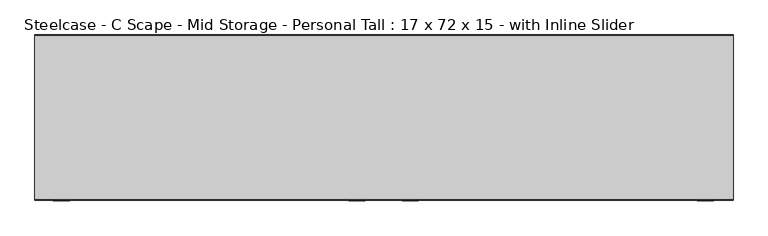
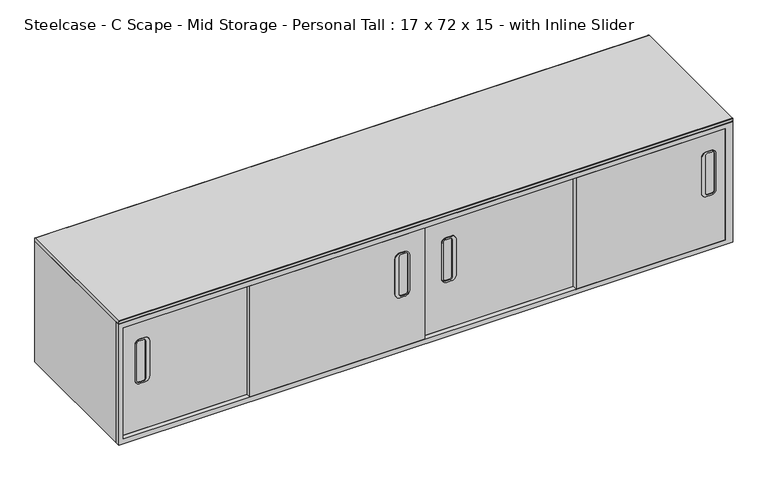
"""IFC4 building model written with IfcOpenShell, lengths in millimetres: furniture geometry, Steelcase - C Scape - Mid Storage - Personal Tall : 17 x 72 x 15 - with Inline Slider."""

from ifc_helpers import new_model, si_unit, point, frame, frame_2d, origin, place, context, project, spatial, polyline, circle_curve, trimmed, segment, composite_curve, outline, extrude, source, transform, mapped, element, save


def steelcase_c_scape_mid_storage_personal_tall_17_x_72_x_15_29b2afee(model_context):
    return source(origin(), model_context, "Body", "SweptSolid", [
        extrude(outline(polyline([(1219.2, 1828.8), (1219.2, 0.0), (838.2, 0.0), (838.2, 1828.8), (1219.2, 1828.8)]), holes=[polyline([(1203.9092, 1806.702), (853.4399855, 1806.702), (853.4399855, 13.437709), (1203.9092, 13.437709), (1203.9092, 1806.702)])]), frame((0.0, -216.535, 0.0), z_axis=(0.0, 1.0, 0.0), x_axis=(0.0, 0.0, 1.0)), (0.0, 0.0, 1.0), 14.3764481),
        extrude(outline(polyline([(1806.702, 207.0105809), (1806.702, -187.7821039), (13.437709, -187.7821039), (13.437709, 207.0105809), (1806.702, 207.0105809)])), frame((0.0, 0.0, 1203.9600145), z_axis=(0.0, 0.0, 1.0), x_axis=(1.0, 0.0, 0.0)), (0.0, 0.0, 1.0), 15.2399855),
        extrude(outline(polyline([(1806.702, 207.0105809), (1806.702, -202.1585519), (13.437709, -202.1585519), (13.437709, 207.0105809), (1806.702, 207.0105809)])), frame((0.0, 0.0, 838.2), z_axis=(0.0, 0.0, 1.0), x_axis=(1.0, 0.0, 0.0)), (0.0, 0.0, 1.0), 15.2399855),
        extrude(outline(composite_curve([segment(polyline([(-215.265, 1229.36), (215.265, 1229.36)]), True, "CONTINUOUS"), segment(trimmed(circle_curve(frame_2d((215.265, 1228.09)), 1.27), [point((215.265, 1229.36))], [point((216.535, 1228.09))], False, "CARTESIAN"), True, "CONTINUOUS"), segment(polyline([(216.535, 1228.09), (216.535, 1220.47)]), True, "CONTINUOUS"), segment(trimmed(circle_curve(frame_2d((215.265, 1220.47)), 1.27), [point((216.535, 1220.47))], [point((215.265, 1219.2))], False, "CARTESIAN"), True, "CONTINUOUS"), segment(polyline([(215.265, 1219.2), (-215.265, 1219.2)]), True, "CONTINUOUS"), segment(trimmed(circle_curve(frame_2d((-215.265, 1220.47)), 1.27), [point((-215.265, 1219.2))], [point((-216.535, 1220.47))], False, "CARTESIAN"), True, "CONTINUOUS"), segment(polyline([(-216.535, 1220.47), (-216.535, 1228.09)]), True, "CONTINUOUS"), segment(trimmed(circle_curve(frame_2d((-215.265, 1228.09)), 1.27), [point((-216.535, 1228.09))], [point((-215.265, 1229.36))], False, "CARTESIAN"), True, "CONTINUOUS")], self_intersect=False)), frame((0.0, 0.0, 0.0), z_axis=(1.0, 0.0, 0.0), x_axis=(0.0, 1.0, 0.0)), (0.0, 0.0, 1.0), 1828.8),
        extrude(outline(polyline([(911.225, -202.1585519), (911.225, 207.0105809), (917.575, 207.0105809), (917.575, -202.1585519), (911.225, -202.1585519)])), frame((0.0, 0.0, 853.4399855), z_axis=(0.0, 0.0, 1.0), x_axis=(1.0, 0.0, 0.0)), (0.0, 0.0, 1.0), 365.7600145),
        extrude(outline(composite_curve([segment(trimmed(circle_curve(frame_2d((1137.0119827, 1764.0365115)), 13.716), [point((1137.0119827, 1777.7525115))], [point((1150.7279827, 1764.0365115))], False, "CARTESIAN"), True, "CONTINUOUS"), segment(polyline([(1150.7279827, 1764.0365115), (1150.7279827, 1749.0888855)]), True, "CONTINUOUS"), segment(trimmed(circle_curve(frame_2d((1137.1006082, 1749.0888855)), 13.6273746), [point((1150.7279827, 1749.0888855))], [point((1137.1006082, 1735.4615109))], False, "CARTESIAN"), True, "CONTINUOUS"), segment(polyline([(1137.1006082, 1735.4615109), (1024.7439343, 1735.4615109)]), True, "CONTINUOUS"), segment(trimmed(circle_curve(frame_2d((1024.7439343, 1749.1775109)), 13.716), [point((1024.7439343, 1735.4615109))], [point((1011.0279343, 1749.1775109))], False, "CARTESIAN"), True, "CONTINUOUS"), segment(polyline([(1011.0279343, 1749.1775109), (1011.0279343, 1764.0365115)]), True, "CONTINUOUS"), segment(trimmed(circle_curve(frame_2d((1024.7439343, 1764.0365115)), 13.716), [point((1011.0279343, 1764.0365115))], [point((1024.7439343, 1777.7525115))], False, "CARTESIAN"), True, "CONTINUOUS"), segment(polyline([(1024.7439343, 1777.7525115), (1137.0119827, 1777.7525115)]), True, "CONTINUOUS")], self_intersect=False), holes=[composite_curve([segment(trimmed(circle_curve(frame_2d((1022.2039479, 1766.5765115)), 6.35), [point((1022.2039479, 1772.9265115))], [point((1015.8539479, 1766.5765115))], True, "CARTESIAN"), True, "CONTINUOUS"), segment(polyline([(1015.8539479, 1766.5765115), (1015.8539479, 1753.8765176)]), True, "CONTINUOUS"), segment(trimmed(circle_curve(frame_2d((1022.2039479, 1753.8765176)), 6.35), [point((1015.8539479, 1753.8765176))], [point((1022.2039479, 1747.5265176))], True, "CARTESIAN"), True, "CONTINUOUS"), segment(polyline([(1022.2039479, 1747.5265176), (1139.5519692, 1747.5265176)]), True, "CONTINUOUS"), segment(trimmed(circle_curve(frame_2d((1139.5519692, 1753.8765176)), 6.35), [point((1139.5519692, 1747.5265176))], [point((1145.9019692, 1753.8765176))], True, "CARTESIAN"), True, "CONTINUOUS"), segment(polyline([(1145.9019692, 1753.8765176), (1145.9019692, 1766.5765115)]), True, "CONTINUOUS"), segment(trimmed(circle_curve(frame_2d((1139.5519692, 1766.5765115)), 6.35), [point((1145.9019692, 1766.5765115))], [point((1139.5519692, 1772.9265115))], True, "CARTESIAN"), True, "CONTINUOUS"), segment(polyline([(1139.5519692, 1772.9265115), (1022.2039479, 1772.9265115)]), True, "CONTINUOUS")], self_intersect=False)]), frame((0.0, -218.44, 0.0), z_axis=(0.0, 1.0, 0.0), x_axis=(0.0, 0.0, 1.0)), (0.0, 0.0, 1.0), 2.54),
        extrude(outline(composite_curve([segment(polyline([(1137.8057327, 961.6057385), (1025.5376843, 961.6057385)]), True, "CONTINUOUS"), segment(trimmed(circle_curve(frame_2d((1025.5376843, 975.3217385)), 13.716), [point((1025.5376843, 961.6057385))], [point((1011.8216843, 975.3217385))], False, "CARTESIAN"), True, "CONTINUOUS"), segment(polyline([(1011.8216843, 975.3217385), (1011.8216843, 990.1807391)]), True, "CONTINUOUS"), segment(trimmed(circle_curve(frame_2d((1025.5376843, 990.1807391)), 13.716), [point((1011.8216843, 990.1807391))], [point((1025.5376843, 1003.8967391))], False, "CARTESIAN"), True, "CONTINUOUS"), segment(polyline([(1025.5376843, 1003.8967391), (1137.8943582, 1003.8967391)]), True, "CONTINUOUS"), segment(trimmed(circle_curve(frame_2d((1137.8943582, 990.2693645)), 13.6273746), [point((1137.8943582, 1003.8967391))], [point((1151.5217327, 990.2693645))], False, "CARTESIAN"), True, "CONTINUOUS"), segment(polyline([(1151.5217327, 990.2693645), (1151.5217327, 975.3217385)]), True, "CONTINUOUS"), segment(trimmed(circle_curve(frame_2d((1137.8057327, 975.3217385)), 13.716), [point((1151.5217327, 975.3217385))], [point((1137.8057327, 961.6057385))], False, "CARTESIAN"), True, "CONTINUOUS")], self_intersect=False), holes=[composite_curve([segment(polyline([(1022.9976979, 966.4317385), (1140.3457192, 966.4317385)]), True, "CONTINUOUS"), segment(trimmed(circle_curve(frame_2d((1140.3457192, 972.7817385)), 6.35), [point((1140.3457192, 966.4317385))], [point((1146.6957192, 972.7817385))], True, "CARTESIAN"), True, "CONTINUOUS"), segment(polyline([(1146.6957192, 972.7817385), (1146.6957192, 985.4817324)]), True, "CONTINUOUS"), segment(trimmed(circle_curve(frame_2d((1140.3457192, 985.4817324)), 6.35), [point((1146.6957192, 985.4817324))], [point((1140.3457192, 991.8317324))], True, "CARTESIAN"), True, "CONTINUOUS"), segment(polyline([(1140.3457192, 991.8317324), (1022.9976979, 991.8317324)]), True, "CONTINUOUS"), segment(trimmed(circle_curve(frame_2d((1022.9976979, 985.4817324)), 6.35), [point((1022.9976979, 991.8317324))], [point((1016.6476979, 985.4817324))], True, "CARTESIAN"), True, "CONTINUOUS"), segment(polyline([(1016.6476979, 985.4817324), (1016.6476979, 972.7817385)]), True, "CONTINUOUS"), segment(trimmed(circle_curve(frame_2d((1022.9976979, 972.7817385)), 6.35), [point((1016.6476979, 972.7817385))], [point((1022.9976979, 966.4317385))], True, "CARTESIAN"), True, "CONTINUOUS")], self_intersect=False)]), frame((0.0, -218.44, 0.0), z_axis=(0.0, 1.0, 0.0), x_axis=(0.0, 0.0, 1.0)), (0.0, 0.0, 1.0), 2.54),
        extrude(outline(composite_curve([segment(trimmed(circle_curve(frame_2d((1137.8057327, 851.0970115)), 13.716), [point((1137.8057327, 864.8130115))], [point((1151.5217327, 851.0970115))], False, "CARTESIAN"), True, "CONTINUOUS"), segment(polyline([(1151.5217327, 851.0970115), (1151.5217327, 836.1493855)]), True, "CONTINUOUS"), segment(trimmed(circle_curve(frame_2d((1137.8943582, 836.1493855)), 13.6273746), [point((1151.5217327, 836.1493855))], [point((1137.8943582, 822.5220109))], False, "CARTESIAN"), True, "CONTINUOUS"), segment(polyline([(1137.8943582, 822.5220109), (1025.5376843, 822.5220109)]), True, "CONTINUOUS"), segment(trimmed(circle_curve(frame_2d((1025.5376843, 836.2380109)), 13.716), [point((1025.5376843, 822.5220109))], [point((1011.8216843, 836.2380109))], False, "CARTESIAN"), True, "CONTINUOUS"), segment(polyline([(1011.8216843, 836.2380109), (1011.8216843, 851.0970115)]), True, "CONTINUOUS"), segment(trimmed(circle_curve(frame_2d((1025.5376843, 851.0970115)), 13.716), [point((1011.8216843, 851.0970115))], [point((1025.5376843, 864.8130115))], False, "CARTESIAN"), True, "CONTINUOUS"), segment(polyline([(1025.5376843, 864.8130115), (1137.8057327, 864.8130115)]), True, "CONTINUOUS")], self_intersect=False), holes=[composite_curve([segment(trimmed(circle_curve(frame_2d((1022.9976979, 853.6370115)), 6.35), [point((1022.9976979, 859.9870115))], [point((1016.6476979, 853.6370115))], True, "CARTESIAN"), True, "CONTINUOUS"), segment(polyline([(1016.6476979, 853.6370115), (1016.6476979, 840.9370176)]), True, "CONTINUOUS"), segment(trimmed(circle_curve(frame_2d((1022.9976979, 840.9370176)), 6.35), [point((1016.6476979, 840.9370176))], [point((1022.9976979, 834.5870176))], True, "CARTESIAN"), True, "CONTINUOUS"), segment(polyline([(1022.9976979, 834.5870176), (1140.3457192, 834.5870176)]), True, "CONTINUOUS"), segment(trimmed(circle_curve(frame_2d((1140.3457192, 840.9370176)), 6.35), [point((1140.3457192, 834.5870176))], [point((1146.6957192, 840.9370176))], True, "CARTESIAN"), True, "CONTINUOUS"), segment(polyline([(1146.6957192, 840.9370176), (1146.6957192, 853.6370115)]), True, "CONTINUOUS"), segment(trimmed(circle_curve(frame_2d((1140.3457192, 853.6370115)), 6.35), [point((1146.6957192, 853.6370115))], [point((1140.3457192, 859.9870115))], True, "CARTESIAN"), True, "CONTINUOUS"), segment(polyline([(1140.3457192, 859.9870115), (1022.9976979, 859.9870115)]), True, "CONTINUOUS")], self_intersect=False)]), frame((0.0, -218.44, 0.0), z_axis=(0.0, 1.0, 0.0), x_axis=(0.0, 0.0, 1.0)), (0.0, 0.0, 1.0), 2.54),
        extrude(outline(composite_curve([segment(polyline([(1137.8057327, 48.53876), (1025.5376843, 48.53876)]), True, "CONTINUOUS"), segment(trimmed(circle_curve(frame_2d((1025.5376843, 62.25476)), 13.716), [point((1025.5376843, 48.53876))], [point((1011.8216843, 62.25476))], False, "CARTESIAN"), True, "CONTINUOUS"), segment(polyline([(1011.8216843, 62.25476), (1011.8216843, 77.1137606)]), True, "CONTINUOUS"), segment(trimmed(circle_curve(frame_2d((1025.5376843, 77.1137606)), 13.716), [point((1011.8216843, 77.1137606))], [point((1025.5376843, 90.8297606))], False, "CARTESIAN"), True, "CONTINUOUS"), segment(polyline([(1025.5376843, 90.8297606), (1137.8943582, 90.8297606)]), True, "CONTINUOUS"), segment(trimmed(circle_curve(frame_2d((1137.8943582, 77.202386)), 13.6273746), [point((1137.8943582, 90.8297606))], [point((1151.5217327, 77.202386))], False, "CARTESIAN"), True, "CONTINUOUS"), segment(polyline([(1151.5217327, 77.202386), (1151.5217327, 62.25476)]), True, "CONTINUOUS"), segment(trimmed(circle_curve(frame_2d((1137.8057327, 62.25476)), 13.716), [point((1151.5217327, 62.25476))], [point((1137.8057327, 48.53876))], False, "CARTESIAN"), True, "CONTINUOUS")], self_intersect=False), holes=[composite_curve([segment(polyline([(1022.9976979, 53.36476), (1140.3457192, 53.36476)]), True, "CONTINUOUS"), segment(trimmed(circle_curve(frame_2d((1140.3457192, 59.71476)), 6.35), [point((1140.3457192, 53.36476))], [point((1146.6957192, 59.71476))], True, "CARTESIAN"), True, "CONTINUOUS"), segment(polyline([(1146.6957192, 59.71476), (1146.6957192, 72.4147539)]), True, "CONTINUOUS"), segment(trimmed(circle_curve(frame_2d((1140.3457192, 72.4147539)), 6.35), [point((1146.6957192, 72.4147539))], [point((1140.3457192, 78.7647539))], True, "CARTESIAN"), True, "CONTINUOUS"), segment(polyline([(1140.3457192, 78.7647539), (1022.9976979, 78.7647539)]), True, "CONTINUOUS"), segment(trimmed(circle_curve(frame_2d((1022.9976979, 72.4147539)), 6.35), [point((1022.9976979, 78.7647539))], [point((1016.6476979, 72.4147539))], True, "CARTESIAN"), True, "CONTINUOUS"), segment(polyline([(1016.6476979, 72.4147539), (1016.6476979, 59.71476)]), True, "CONTINUOUS"), segment(trimmed(circle_curve(frame_2d((1022.9976979, 59.71476)), 6.35), [point((1016.6476979, 59.71476))], [point((1022.9976979, 53.36476))], True, "CARTESIAN"), True, "CONTINUOUS")], self_intersect=False)]), frame((0.0, -217.805, 0.0), z_axis=(0.0, 1.0, 0.0), x_axis=(0.0, 0.0, 1.0)), (0.0, 0.0, 1.0), 1.27),
        extrude(outline(polyline([(390.3980817, -202.1585519), (13.437709, -202.1585519), (13.437709, -187.1471039), (390.3980817, -187.1471039), (390.3980817, -202.1585519)])), frame((0.0, 0.0, 853.4399855), z_axis=(0.0, 0.0, 1.0), x_axis=(1.0, 0.0, 0.0)), (0.0, 0.0, 1.0), 350.4692145),
        extrude(outline(polyline([(911.225, -215.9), (390.3980817, -215.9), (390.3980817, -202.1585519), (911.225, -202.1585519), (911.225, -215.9)])), frame((0.0, 0.0, 853.4399855), z_axis=(0.0, 0.0, 1.0), x_axis=(1.0, 0.0, 0.0)), (0.0, 0.0, 1.0), 350.4692145),
        extrude(outline(polyline([(1806.702, -216.535), (1362.1385, -216.535), (1362.1385, -202.1585519), (1806.702, -202.1585519), (1806.702, -216.535)])), frame((0.0, 0.0, 853.4399855), z_axis=(0.0, 0.0, 1.0), x_axis=(1.0, 0.0, 0.0)), (0.0, 0.0, 1.0), 350.4692145),
        extrude(outline(polyline([(1362.1385, -202.1585519), (917.575, -202.1585519), (917.575, -187.7821039), (1362.1385, -187.7821039), (1362.1385, -202.1585519)])), frame((0.0, 0.0, 853.4399855), z_axis=(0.0, 0.0, 1.0), x_axis=(1.0, 0.0, 0.0)), (0.0, 0.0, 1.0), 365.7600145),
        extrude(outline(polyline([(13.437709, -202.1585519), (0.0, -202.1585519), (0.0, 216.535), (1828.8, 216.535), (1828.8, -202.1585519), (1806.702, -202.1585519), (1806.702, 207.0105809), (945.6892922, 207.0105809), (13.437709, 207.0105809), (13.437709, -202.1585519)])), frame((0.0, 0.0, 838.2), z_axis=(0.0, 0.0, 1.0), x_axis=(1.0, 0.0, 0.0)), (0.0, 0.0, 1.0), 381.0),
    ])


if __name__ == "__main__":
    model = new_model("IFC4")
    model_context = context("Model", 3, world=origin())
    ifc_project = project(units=[si_unit("LENGTHUNIT", "METRE", prefix="MILLI")], contexts=[model_context])
    site = spatial("IfcSite", under=ifc_project)
    building = spatial("IfcBuilding", under=site)
    placement = place(None, origin())
    steelcase_c_scape_mid_storage_personal_tall_17_x_72_x_15_shape = steelcase_c_scape_mid_storage_personal_tall_17_x_72_x_15_29b2afee(model_context)
    element("IfcFurniture", 1, ObjectType="Steelcase - C Scape - Mid Storage - Personal Tall : 17 x 72 x 15 - with Inline Slider", at=placement, inside=building, context=model_context, shape_type="MappedRepresentation", body=[
        mapped(steelcase_c_scape_mid_storage_personal_tall_17_x_72_x_15_shape, transform((0.0, 0.0, 0.0), x_axis=(1.0, 0.0, 0.0), y_axis=(0.0, 1.0, 0.0), z_axis=(0.0, 0.0, 1.0))),
    ])
    save(model, "model.ifc")
